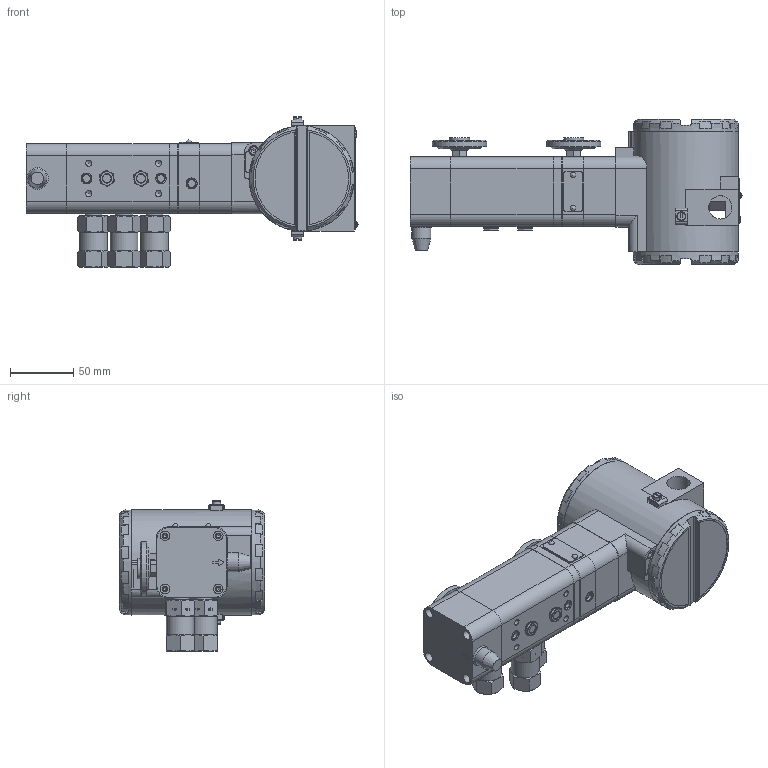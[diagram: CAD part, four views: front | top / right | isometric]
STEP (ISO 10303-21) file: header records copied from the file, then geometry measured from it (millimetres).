
FILE_DESCRIPTION(/* description */ (''),/* implementation_level */ '2;1');
FILE_NAME(/* name */ 'F:\Area\Desenvolvimento_2\Projects\Sensor\projetos\Natasha\Desenho FY\Steps\FY30X_2MAN_IN_OUT1.stp',/* time_stamp */ '2023-03-02T09:50:36-03:00',/* author */ ('inventor02'),/* organization */ (''),/* preprocessor_version */ 'ST-DEVELOPER v17',/* originating_system */ 'Autodesk Inventor 2019',/* authorisation */ '');
FILE_SCHEMA (('CONFIG_CONTROL_DESIGN'));
Products named in the file (55): Subconjunto FY completo; Subconjunto transdutor; Subconjunto bloco; Bloco usinado; Subconjunto filtro ar 1-4 npt; Conexao traseira 1-4 npt; Elemento filtrante; Conexao frontal 1-4 npt; O-ring da conexao 1-4 npt; Subconjunto vant plug; Vent plug; Filtro vant plug; Subconjunto sealing plugs.0007; Sealing plugs; Sealing plugs sphere; DIN 913 - M10 x 10; Subconjunto do diafragma; Junta superiror diafragma; arruela superior diafragma; Distanciador uniao diafragma; Junta inferior diafragma; Eixo do diafragma; Intermediaria; Subconjunto base; Base usinada; Restricao; Subconjunto sinterizado; Bucha do sinterizado; Sinterizado retificado; Plaqueta sem texto; Rebite U; MANÔMETRO; Subconjunto tampa ligacao; Tampa de ligacao usinada; Subconjunto da Tampa do Hall; Tampa do Hall; Subconjunto transmissor; Subconjunto carcaca transmissor; Carcaca usinada; Chapa aterramento externo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
Assembly tree (68 placements, depth 5):
  Subconjunto FY completo
    Subconjunto transdutor
      Subconjunto bloco
        Bloco usinado
        Subconjunto sinterizado  x2
          Bucha do sinterizado
          Sinterizado retificado
        Subconjunto filtro ar 1-4 npt  x3
          Conexao traseira 1-4 npt
          Elemento filtrante
          Conexao frontal 1-4 npt
          O-ring da conexao 1-4 npt
        Subconjunto vant plug  x2
          Vent plug
          Filtro vant plug
        Subconjunto sealing plugs.0007  x2
          Sealing plugs
          Sealing plugs sphere
        MANÔMETRO
        DIN 913 - M10 x 10
      Subconjunto do diafragma
        Junta superiror diafragma
        arruela superior diafragma
        Distanciador uniao diafragma
        Junta inferior diafragma
        Eixo do diafragma
        Intermediaria
      Subconjunto base
        Base usinada
        Restricao
        Subconjunto sinterizado  x2
          Bucha do sinterizado
          Sinterizado retificado
        Plaqueta sem texto
        Rebite U  x2
        MANÔMETRO
      Subconjunto tampa ligacao
        Tampa de ligacao usinada
      Subconjunto da Tampa do Hall
        Tampa do Hall
    Subconjunto transmissor
      Subconjunto carcaca transmissor
        Carcaca usinada
        Chapa aterramento externo  x2
        ISO 1207 - M4 x 8  x2
        Tampao Z-S  x2
      Subconjunto tampa com visor
        Tampa macho com visor
        VIDRO DO VISOR
        Trava do vidro da tampa com visor
      Subconjunto tampa sem visor
        Tampa macho sem visor_2
      Subconjunto display
      DIN 912 - M4 x 8  x2
      DIN 912 - M4 x 6
      DIN 84 - M3 x 4
      Rebite da Plaqueta
      Subconjunto plaqueta
        Plaqueta transmissor
        Rebite da Plaqueta
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Bounding box: 261.91 x 114.5 x 118.65 mm (x, y, z)
Volume: 797334.6 mm3; surface area: 302804.1 mm2
Topology: 63 solids, 63 shells, 2368 faces, 6401 edges, 4379 vertices
Faces by surface type: plane 1042, cylinder 528, bspline 451, cone 232, torus 97, sphere 18
Full cylindrical faces by diameter (mm): 1.3 x1, 2 x2, 2.1 x5, 2.11 x2, 2.459 x5, 2.5 x4, 2.54 x4, 2.7 x4, 2.729 x1, 2.8 x2, 3 x3, 3.1 x1, 3.2 x24, 3.242 x16, 3.5 x3, 3.57 x2, 3.6 x1, 3.65 x1, 3.8 x1, 4 x16, 4.2 x1, 4.3 x18, 4.4 x2, 4.5 x9, 4.917 x4, 5.2 x2, 5.3 x4, 5.5 x4, 5.9 x3, 6.3 x4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
Entity records: 59067 total; most frequent: CARTESIAN_POINT 14689, ORIENTED_EDGE 8898, DIRECTION 8650, EDGE_CURVE 4449, AXIS2_PLACEMENT_3D 3328, VERTEX_POINT 3093, EDGE_LOOP 2040, LINE 1994
